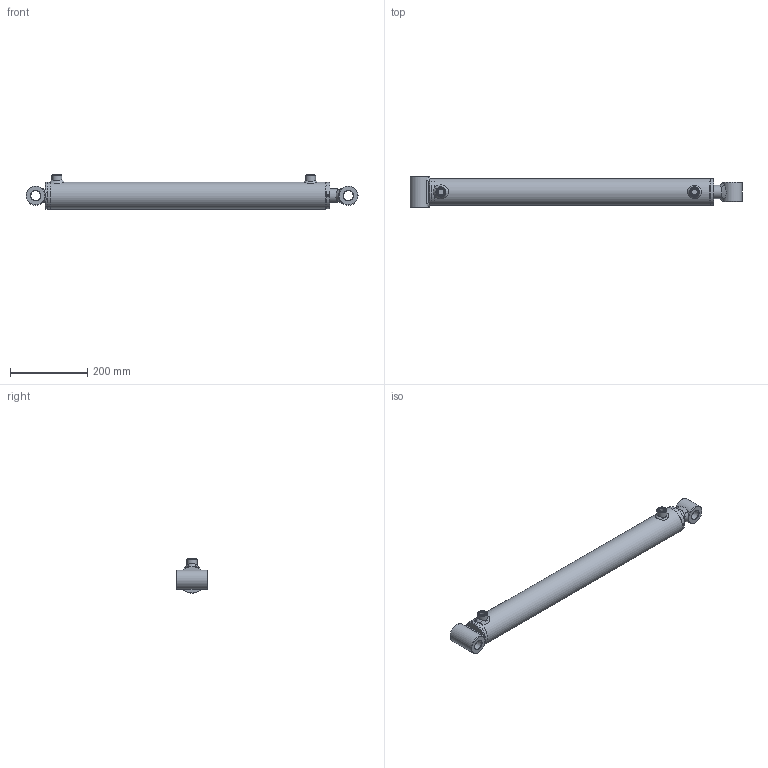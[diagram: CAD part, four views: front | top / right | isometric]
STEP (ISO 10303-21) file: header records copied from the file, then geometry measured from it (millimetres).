
FILE_DESCRIPTION( ( 'Unknown' ), '1' );
FILE_NAME( 'E:/LIBRERIA_3d/CILINDRI/HM2/HM23350600.stp', 'Unknown', ( 'Unknown' ), ( 'Unknown' ), 'PSStep 17.0.49', 'Unknown', ' ' );
FILE_SCHEMA( ( 'AUTOMOTIVE_DESIGN { 1 0 10303 214 1 1 1 1 }' ) );
Length unit declared in the file: millimetre
Products named in the file (26): CT00060020; STL3500600-oa6; Saldatura d'angolo 1-oa4; FTM3500600-oa5; CBSC220600; CG07006035; HM03350600; Saldatura con preparazione 1-oa2; Saldatura d'angolo 1-oa3; CF00060070; CBS0600000; CDA0002015; APG0600000; SBL3530600; Assem1; CB25050050; CB25050080; Saldatura d'angolo 1-oa0; Saldatura d'angolo 2-oa1
Assembly tree (18 placements, depth 4):
  Saldatura d'angolo 1-oa4
  Saldatura d'angolo 1-oa4
  Saldatura d'angolo 1-oa3
  Saldatura d'angolo 1-oa3
  Assem1
    CB25050050
    CB25050080
    HM03350600
      Saldatura con preparazione 1-oa2
      Saldatura con preparazione 1-oa2
      CF00060070
      CBS0600000
      CDA0002015
      APG0600000  x2
      SBL3530600
      CT00060020
        CT00060020
      STL3500600-oa6
        FTM3500600-oa5
        CBSC220600
      CG07006035
        CG07006035
Bounding box: 860 x 80 x 89 mm (x, y, z)
Volume: 1859673.5 mm3; surface area: 504379.5 mm2
Topology: 22 solids, 22 shells, 301 faces, 603 edges, 351 vertices
Faces by surface type: bspline 90, plane 74, cylinder 59, cone 40, torus 38
Full cylindrical faces by diameter (mm): 4.25 x1, 5 x2, 6 x2, 7 x2, 14.95 x2, 16 x2, 16.6 x2, 19.4 x1, 20 x5, 22 x2, 24.5 x1, 25.25 x2, 26 x2, 30 x1, 35 x4, 37 x1, 38 x1, 43.6 x1, 44 x1, 45 x1, 50 x2, 55 x1, 55.39 x2, 58.65 x2, 59.9 x1, 60 x1, 60.3 x1, 60.5 x1, 60.6 x1, 61 x1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
Entity records: 19384 total; most frequent: CARTESIAN_POINT 12216, DIRECTION 850, ORIENTED_EDGE 812, EDGE_LOOP 470, AXIS2_PLACEMENT_3D 407, EDGE_CURVE 406, FACE_OUTER_BOUND 388, VERTEX_POINT 301
